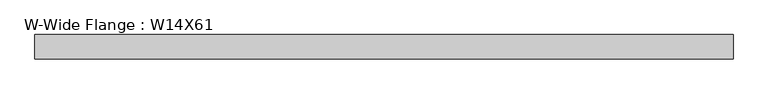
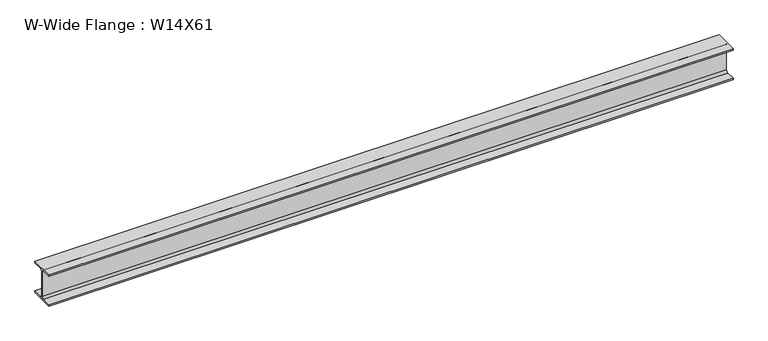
"""IFC4 building model written with IfcOpenShell, lengths in millimetres: beam geometry, W-Wide Flange : W14X61."""

from ifc_helpers import new_model, si_unit, point, frame, frame_2d, origin, place, context, project, spatial, polyline, circle_curve, trimmed, segment, composite_curve, outline, extrude, source, transform, mapped, element, save


def w_wide_flange_w14x61_a1268b43(model_context):
    return source(origin(), model_context, "Body", "SweptSolid", [
        extrude(outline(composite_curve([segment(polyline([(127.0, -160.147), (127.0, -176.53), (-127.0, -176.53), (-127.0, -160.147), (-26.4795, -160.147)]), True, "CONTINUOUS"), segment(trimmed(circle_curve(frame_2d((-26.4795, -138.43)), 21.717), [point((-26.4795, -160.147))], [point((-4.7625, -138.43))], True, "CARTESIAN"), True, "CONTINUOUS"), segment(polyline([(-4.7625, -138.43), (-4.7625, 138.43)]), True, "CONTINUOUS"), segment(trimmed(circle_curve(frame_2d((-26.4795, 138.43)), 21.717), [point((-4.7625, 138.43))], [point((-26.4795, 160.147))], True, "CARTESIAN"), True, "CONTINUOUS"), segment(polyline([(-26.4795, 160.147), (-127.0, 160.147), (-127.0, 176.53), (127.0, 176.53), (127.0, 160.147), (26.4795, 160.147)]), True, "CONTINUOUS"), segment(trimmed(circle_curve(frame_2d((26.4795, 138.43)), 21.717), [point((26.4795, 160.147))], [point((4.7625, 138.43))], True, "CARTESIAN"), True, "CONTINUOUS"), segment(polyline([(4.7625, 138.43), (4.7625, -138.43)]), True, "CONTINUOUS"), segment(trimmed(circle_curve(frame_2d((26.4795, -138.43)), 21.717), [point((4.7625, -138.43))], [point((26.4795, -160.147))], True, "CARTESIAN"), True, "CONTINUOUS"), segment(polyline([(26.4795, -160.147), (127.0, -160.147)]), True, "CONTINUOUS")], self_intersect=False)), frame((-3645.6441406, 0.0, 0.0), z_axis=(1.0, 0.0, 0.0), x_axis=(0.0, 1.0, 0.0)), (0.0, 0.0, 1.0), 7291.2882813),
    ])


if __name__ == "__main__":
    model = new_model("IFC4")
    model_context = context("Model", 3, world=origin())
    ifc_project = project(units=[si_unit("LENGTHUNIT", "METRE", prefix="MILLI")], contexts=[model_context])
    site = spatial("IfcSite", under=ifc_project)
    building = spatial("IfcBuilding", under=site)
    placement = place(None, origin())
    w_wide_flange_w14x61_shape = w_wide_flange_w14x61_a1268b43(model_context)
    element("IfcBeam", 1, ObjectType="W-Wide Flange : W14X61", at=placement, inside=building, context=model_context, shape_type="MappedRepresentation", body=[
        mapped(w_wide_flange_w14x61_shape, transform((0.0, 0.0, 0.0), x_axis=(1.0, 0.0, 0.0), y_axis=(0.0, 1.0, 0.0), z_axis=(0.0, 0.0, 1.0))),
    ])
    save(model, "model.ifc")
